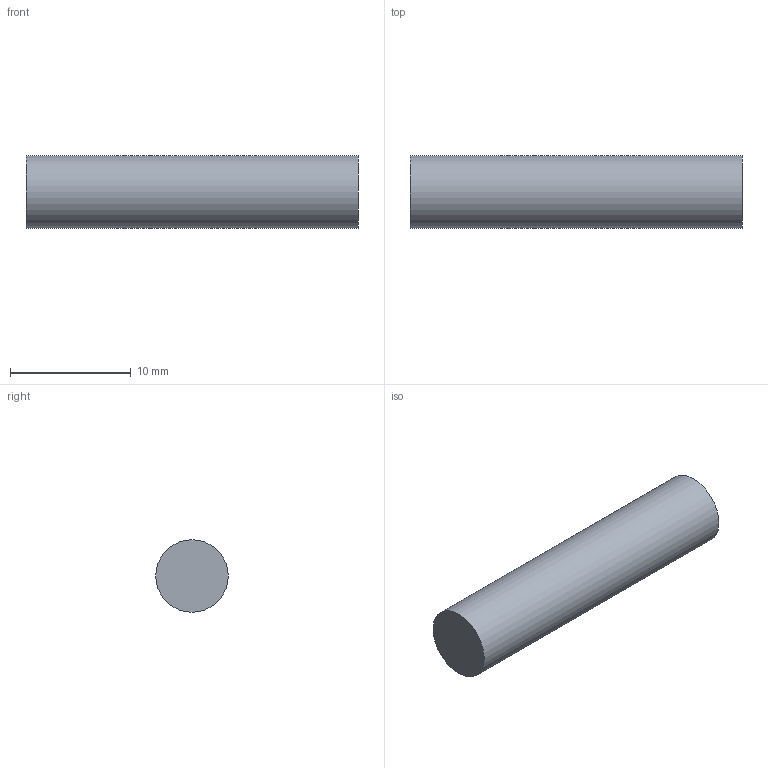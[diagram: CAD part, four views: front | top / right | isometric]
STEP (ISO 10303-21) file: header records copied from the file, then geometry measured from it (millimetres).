
FILE_DESCRIPTION(('Open CASCADE Model'),'2;1');
FILE_NAME('Open CASCADE Shape Model','2026-10-16T05:25:08',('Author'),( 'Open CASCADE'),'Open CASCADE STEP processor 7.9','Open CASCADE 7.9' ,'Unknown');
FILE_SCHEMA(('AUTOMOTIVE_DESIGN { 1 0 10303 214 1 1 1 1 }'));
Length unit declared in the file: millimetre
Products named in the file (1): Open CASCADE STEP translator 7.9 21
Bounding box: 27.5 x 6 x 6 mm (x, y, z)
Volume: 777.5 mm3; surface area: 574.9 mm2
Topology: 1 solids, 1 shells, 3 faces, 3 edges, 2 vertices
Faces by surface type: plane 2, cylinder 1
Full cylindrical faces by diameter (mm): 6 x1
Entity records: 108 total; most frequent: DIRECTION 19, CARTESIAN_POINT 15, AXIS2_PLACEMENT_3D 6, ORIENTED_EDGE 6, PCURVE 6, DEFINITIONAL_REPRESENTATION 6, LINE 5, VECTOR 5
